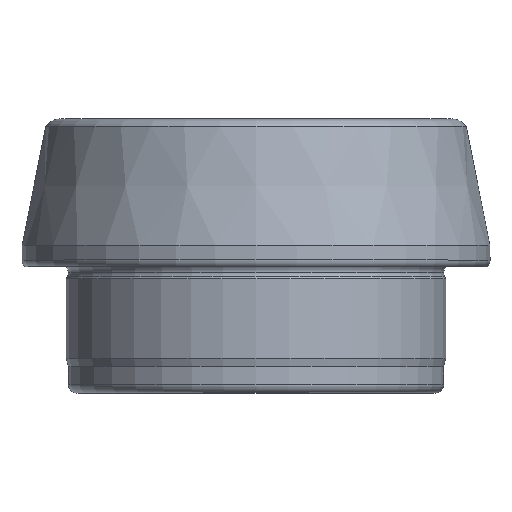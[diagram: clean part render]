
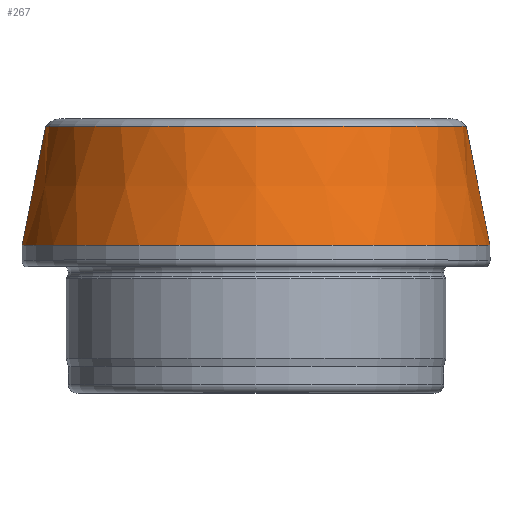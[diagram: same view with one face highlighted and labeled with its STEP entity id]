
A CAD part, top view. The second image highlights one B-rep face of the part: STEP entity #267.
In plain terms, the highlighted conical face has half-angle 11.31 degrees and reference radius 200.001 mm.
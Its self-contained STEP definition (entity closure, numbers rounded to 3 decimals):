
#17 = AXIS2_PLACEMENT_3D ( 'NONE', #868, #837, #832 ) ;
#23 = FACE_OUTER_BOUND ( 'NONE', #936, .T. ) ;
#54 = CONICAL_SURFACE ( 'NONE', #17, 200.001, 0.197 ) ;
#141 = EDGE_CURVE ( 'NONE', #601, #955, #348, .T. ) ;
#142 = EDGE_CURVE ( 'NONE', #579, #943, #331, .T. ) ;
#160 = EDGE_CURVE ( 'NONE', #579, #601, #847, .T. ) ;
#202 = AXIS2_PLACEMENT_3D ( 'NONE', #237, #236, #235 ) ;
#235 = DIRECTION ( 'NONE',  ( 1., 0., 0. ) ) ;
#236 = DIRECTION ( 'NONE',  ( 0., 1., 0. ) ) ;
#237 = CARTESIAN_POINT ( 'NONE',  ( 0., 12.641, 0. ) ) ;
#255 = CARTESIAN_POINT ( 'NONE',  ( -9.972, 12.641, 0. ) ) ;
#266 = VECTOR ( 'NONE', #327, 1000. ) ;
#267 = ADVANCED_FACE ( 'NONE', ( #23 ), #54, .T. ) ;
#275 = VECTOR ( 'NONE', #332, 1000. ) ;
#277 = CARTESIAN_POINT ( 'NONE',  ( 9.972, 12.641, 0. ) ) ;
#327 = DIRECTION ( 'NONE',  ( -0.196, -0.981, 0. ) ) ;
#328 = CARTESIAN_POINT ( 'NONE',  ( 0., 62.5, 0. ) ) ;
#331 = LINE ( 'NONE', #328, #266 ) ;
#332 = DIRECTION ( 'NONE',  ( 0.196, -0.981, 0. ) ) ;
#341 = CARTESIAN_POINT ( 'NONE',  ( 0., 62.5, 0. ) ) ;
#348 = LINE ( 'NONE', #341, #275 ) ;
#579 = VERTEX_POINT ( 'NONE', #255 ) ;
#592 = ORIENTED_EDGE ( 'NONE', *, *, #141, .F. ) ;
#601 = VERTEX_POINT ( 'NONE', #277 ) ;
#651 = DIRECTION ( 'NONE',  ( 1., 0., 0. ) ) ;
#655 = DIRECTION ( 'NONE',  ( 0., 1., 0. ) ) ;
#658 = ORIENTED_EDGE ( 'NONE', *, *, #160, .F. ) ;
#671 = ORIENTED_EDGE ( 'NONE', *, *, #722, .T. ) ;
#677 = AXIS2_PLACEMENT_3D ( 'NONE', #679, #655, #651 ) ;
#679 = CARTESIAN_POINT ( 'NONE',  ( 0., 7., 0. ) ) ;
#698 = CIRCLE ( 'NONE', #677, 11.1 ) ;
#700 = ORIENTED_EDGE ( 'NONE', *, *, #142, .T. ) ;
#722 = EDGE_CURVE ( 'NONE', #943, #955, #698, .T. ) ;
#832 = DIRECTION ( 'NONE',  ( 1., 0., 0. ) ) ;
#837 = DIRECTION ( 'NONE',  ( 0., -1., 0. ) ) ;
#847 = CIRCLE ( 'NONE', #202, 9.972 ) ;
#868 = CARTESIAN_POINT ( 'NONE',  ( 0., -937.5, 0. ) ) ;
#932 = CARTESIAN_POINT ( 'NONE',  ( 11.1, 7., 0. ) ) ;
#936 = EDGE_LOOP ( 'NONE', ( #658, #700, #671, #592 ) ) ;
#943 = VERTEX_POINT ( 'NONE', #991 ) ;
#955 = VERTEX_POINT ( 'NONE', #932 ) ;
#991 = CARTESIAN_POINT ( 'NONE',  ( -11.1, 7., 0. ) ) ;
